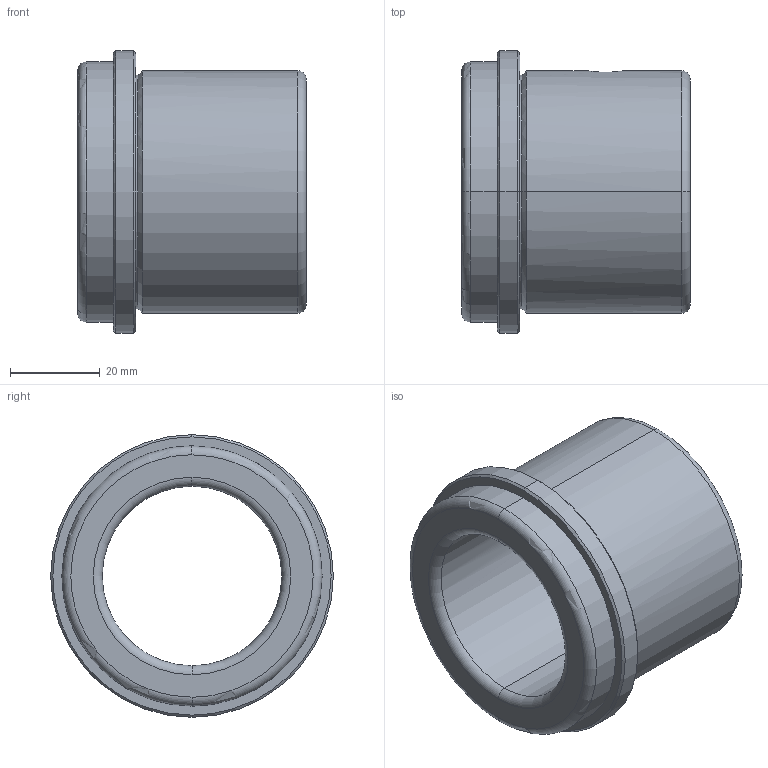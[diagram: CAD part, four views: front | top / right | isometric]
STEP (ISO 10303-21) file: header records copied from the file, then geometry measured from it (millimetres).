
FILE_DESCRIPTION(('CATIA V5 STEP Exchange'),'2;1');
FILE_NAME('C:\Users\Utente\Desktop\IO LAVORO\3D X SITO CF\X SITO\FAMO\FAMO-SF1-A40 x 51.stp','2021-01-06T16:21:05+00:00',('none'),('none'),'CATIA Version 5 Release 20 GA (IN-10)','CATIA V5 STEP AP203','none');
FILE_SCHEMA(('CONFIG_CONTROL_DESIGN'));
Length unit declared in the file: millimetre
Products named in the file (1): FAMO-SF1-A40 x 51
Bounding box: 51 x 63 x 63 mm (x, y, z)
Volume: 58265.4 mm3; surface area: 18931.6 mm2
Topology: 1 solids, 1 shells, 33 faces, 114 edges, 86 vertices
Faces by surface type: cylinder 12, torus 8, cone 8, plane 5
Entity records: 1549 total; most frequent: CARTESIAN_POINT 533, ORIENTED_EDGE 228, DIRECTION 156, EDGE_CURVE 114, AXIS2_PLACEMENT_3D 104, VERTEX_POINT 86, CIRCLE 70, EDGE_LOOP 40
